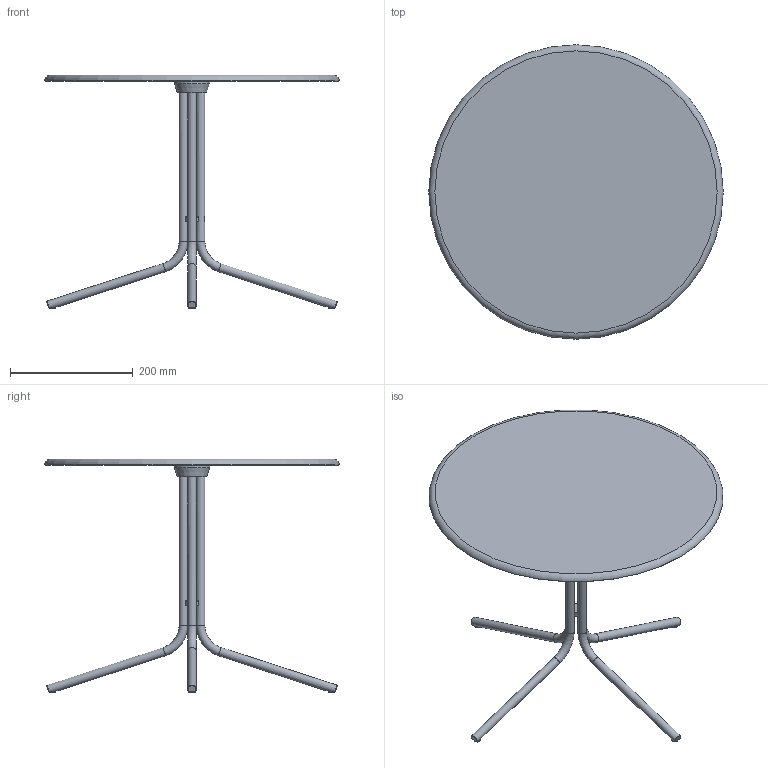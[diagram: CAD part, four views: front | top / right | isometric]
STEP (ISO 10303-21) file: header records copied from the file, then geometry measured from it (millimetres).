
FILE_DESCRIPTION((''),'2;1');
FILE_NAME('C:\AutodeskVault\AreaLavoro\Progetti\SoVeT Italia\2. Tavolini_Coffee tables\Genius\Genius Round\Web file\Genius Round Web\P4700.stp','2012-06-19T12:02:29',('Gianluca'),('So.Ve.T. s.r.l.'),'Autodesk Inventor 2013','Autodesk Inventor 2013','IL PROGETTO E'' DI ESCLUSIVA PROPRIETA'' DELLA SO.VE.T. srl. E'' VIETATA OGNI RIPRODUZIONE TOTALE O PARZIALE E QUALSIASI UTILIZZO NON AUTORIZZATO. ');
FILE_SCHEMA(('AUTOMOTIVE_DESIGN { 1 0 10303 214 1 1 1 1 }'));
Length unit declared in the file: millimetre
Products named in the file (1): P4700 LCTR Contorno semplificato
Bounding box: 480 x 480 x 381 mm (x, y, z)
Volume: 2130389.9 mm3; surface area: 460414.3 mm2
Topology: 1 solids, 1 shells, 73 faces, 205 edges, 130 vertices
Faces by surface type: plane 22, cylinder 19, cone 15, torus 13, sphere 4
Full cylindrical faces by diameter (mm): 10 x4, 14 x8, 58 x1
Entity records: 2156 total; most frequent: CARTESIAN_POINT 503, DIRECTION 334, ORIENTED_EDGE 278, AXIS2_PLACEMENT_3D 159, EDGE_CURVE 139, EDGE_LOOP 110, VERTEX_POINT 99, STYLED_ITEM 74
